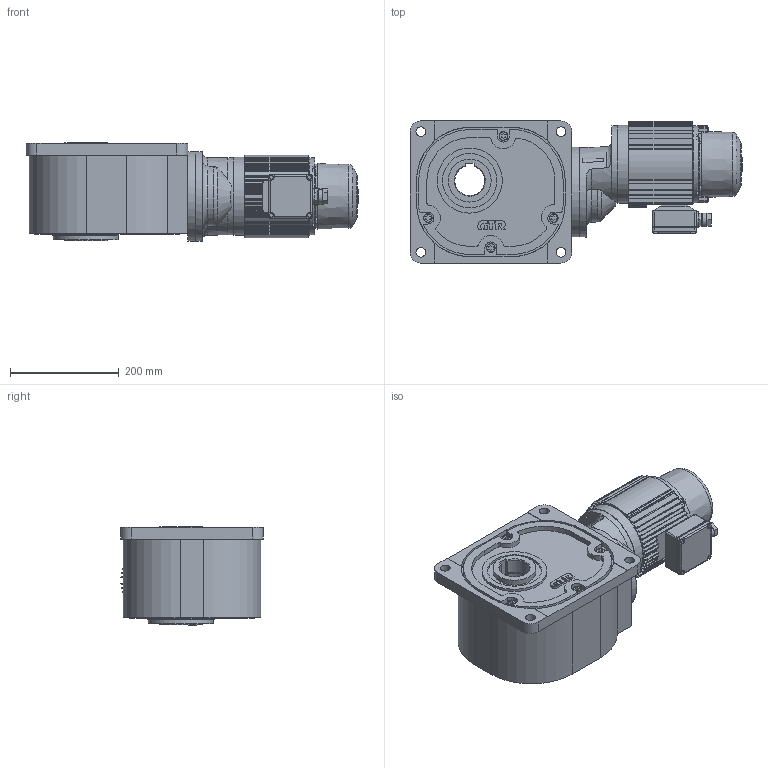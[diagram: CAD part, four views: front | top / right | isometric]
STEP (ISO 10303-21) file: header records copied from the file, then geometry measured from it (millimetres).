
FILE_DESCRIPTION( ( 'STEP AP203' ), ' ' );
FILE_NAME( 'p:/temp/worker_86/924_3324/app_90_12017041502110251205012260eae72_000000_00_00_000000/format_0/FS55N300N-IPH075NENNone.stp', '2017-04-15T00:11:04', ( '' ), ( '' ), ' ', 'PARTsolutions', ' ' );
FILE_SCHEMA( ( 'CONFIG_CONTROL_DESIGN' ) );
Length unit declared in the file: millimetre
Products named in the file (6): FS55N300N-IPH075NENNone; _FS55; _GH075; HI_T075; _075IPH; _E-BOX075
Assembly tree (5 placements, depth 2):
  FS55N300N-IPH075NENNone
    _FS55
    _GH075
    HI_T075
    _075IPH
    _E-BOX075
Bounding box: 611.5 x 262 x 181.8 mm (x, y, z)
Volume: 15590358.6 mm3; surface area: 734000.7 mm2
Topology: 5 solids, 5 shells, 801 faces, 2162 edges, 1430 vertices
Faces by surface type: plane 394, cylinder 370, torus 19, cone 18
Full cylindrical faces by diameter (mm): 4 x2, 5 x2, 7 x6, 10.2 x8, 12 x5, 16 x4, 18 x4, 21 x1, 24 x1, 29 x1, 79 x2, 100 x2, 120 x2, 122 x1, 141.5 x1, 142 x1, 144 x2, 165 x1
Entity records: 25645 total; most frequent: CARTESIAN_POINT 4880, DIRECTION 4476, ORIENTED_EDGE 4188, EDGE_CURVE 2094, AXIS2_PLACEMENT_3D 1639, VERTEX_POINT 1421, LINE 1198, VECTOR 1198
